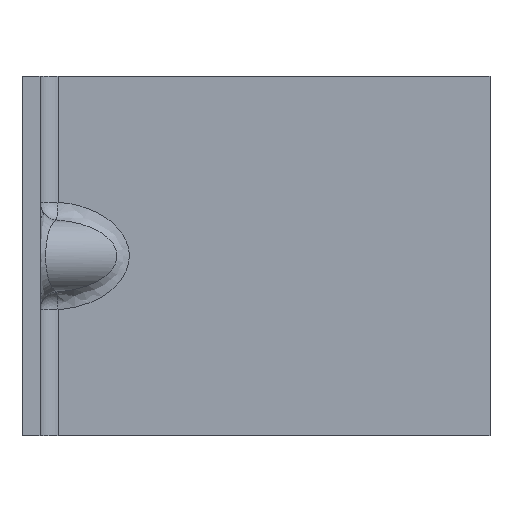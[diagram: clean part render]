
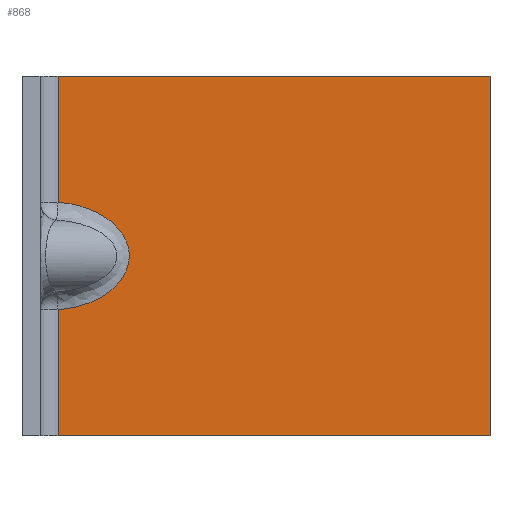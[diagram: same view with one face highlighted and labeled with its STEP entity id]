
A CAD part, left-side view. The second image highlights one B-rep face of the part: STEP entity #868.
In plain terms, the highlighted planar face has unit normal (-1, 0, 0).
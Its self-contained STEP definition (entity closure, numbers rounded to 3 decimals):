
#5=DIRECTION('',(0.,-1.,0.));
#6=VECTOR('',#5,48.);
#7=CARTESIAN_POINT('',(0.,-4.,0.));
#8=LINE('',#7,#6);
#186=DIRECTION('',(0.,0.,1.));
#187=VECTOR('',#186,40.);
#188=CARTESIAN_POINT('',(0.,-52.,0.));
#189=LINE('',#188,#187);
#190=CARTESIAN_POINT('',(0.,-4.,14.028));
#191=CARTESIAN_POINT('',(0.,-4.639,
14.07));
#192=CARTESIAN_POINT('',(0.,-5.831,14.246));
#193=CARTESIAN_POINT('',(0.,-7.361,
14.699));
#194=CARTESIAN_POINT('',(0.,-8.66,15.295));
#195=CARTESIAN_POINT('',(0.,-9.731,
15.997));
#196=CARTESIAN_POINT('',(0.,-10.579,16.773));
#197=CARTESIAN_POINT('',(0.,-11.207,
17.587));
#198=CARTESIAN_POINT('',(0.,-11.627,
18.408));
#199=CARTESIAN_POINT('',(0.,-11.864,
19.221));
#200=CARTESIAN_POINT('',(0.,-11.938,
20.041));
#201=CARTESIAN_POINT('',(0.,-11.845,
20.894));
#202=CARTESIAN_POINT('',(0.,-11.551,
21.788));
#203=CARTESIAN_POINT('',(0.,-11.014,22.711));
#204=CARTESIAN_POINT('',(0.,-10.207,
23.611));
#205=CARTESIAN_POINT('',(0.,-9.118,24.443));
#206=CARTESIAN_POINT('',(0.,-7.736,
25.162));
#207=CARTESIAN_POINT('',(0.,-6.053,25.714));
#208=CARTESIAN_POINT('',(0.,-4.72,
25.924));
#209=CARTESIAN_POINT('',(0.,-4.,25.972));
#226=DIRECTION('',(0.,0.,1.));
#227=VECTOR('',#226,14.028);
#228=CARTESIAN_POINT('',(0.,-4.,0.));
#229=LINE('',#228,#227);
#253=DIRECTION('',(0.,0.,1.));
#254=VECTOR('',#253,14.028);
#255=CARTESIAN_POINT('',(0.,-4.,25.972));
#256=LINE('',#255,#254);
#308=DIRECTION('',(0.,-1.,0.));
#309=VECTOR('',#308,48.);
#310=CARTESIAN_POINT('',(0.,-4.,40.));
#311=LINE('',#310,#309);
#385=CARTESIAN_POINT('',(0.,-52.,0.));
#387=VERTEX_POINT('',#385);
#393=CARTESIAN_POINT('',(0.,-52.,40.));
#395=VERTEX_POINT('',#393);
#409=CARTESIAN_POINT('',(0.,-4.,0.));
#410=VERTEX_POINT('',#409);
#413=CARTESIAN_POINT('',(0.,-4.,40.));
#414=VERTEX_POINT('',#413);
#426=CARTESIAN_POINT('',(0.,-4.,14.028));
#428=VERTEX_POINT('',#426);
#429=VERTEX_POINT('',#209);
#851=CARTESIAN_POINT('',(0.,-2.,0.));
#852=DIRECTION('',(-1.,0.,0.));
#853=DIRECTION('',(0.,-1.,0.));
#854=AXIS2_PLACEMENT_3D('',#851,#852,#853);
#855=PLANE('',#854);
#857=ORIENTED_EDGE('',*,*,#856,.T.);
#859=ORIENTED_EDGE('',*,*,#858,.T.);
#861=ORIENTED_EDGE('',*,*,#860,.T.);
#862=ORIENTED_EDGE('',*,*,#843,.F.);
#863=ORIENTED_EDGE('',*,*,#452,.F.);
#865=ORIENTED_EDGE('',*,*,#864,.T.);
#866=EDGE_LOOP('',(#857,#859,#861,#862,#863,#865));
#867=FACE_OUTER_BOUND('',#866,.F.);
#868=ADVANCED_FACE('',(#867),#855,.T.);
#210=B_SPLINE_CURVE_WITH_KNOTS('',3,(#190,#191,#192,#193,#194,#195,#196,#197,
#198,#199,#200,#201,#202,#203,#204,#205,#206,#207,#208,#209),.UNSPECIFIED.,.F.,
.F.,(4,1,1,1,1,1,1,1,1,1,1,1,1,1,1,1,1,4),(0.,0.059,
0.118,0.176,0.235,0.294,
0.353,0.412,0.471,0.529,
0.588,0.647,0.706,0.765,
0.824,0.882,0.941,1.),.UNSPECIFIED.);
#452=EDGE_CURVE('',#410,#387,#8,.T.);
#843=EDGE_CURVE('',#387,#395,#189,.T.);
#856=EDGE_CURVE('',#428,#429,#210,.T.);
#858=EDGE_CURVE('',#429,#414,#256,.T.);
#860=EDGE_CURVE('',#414,#395,#311,.T.);
#864=EDGE_CURVE('',#410,#428,#229,.T.);
